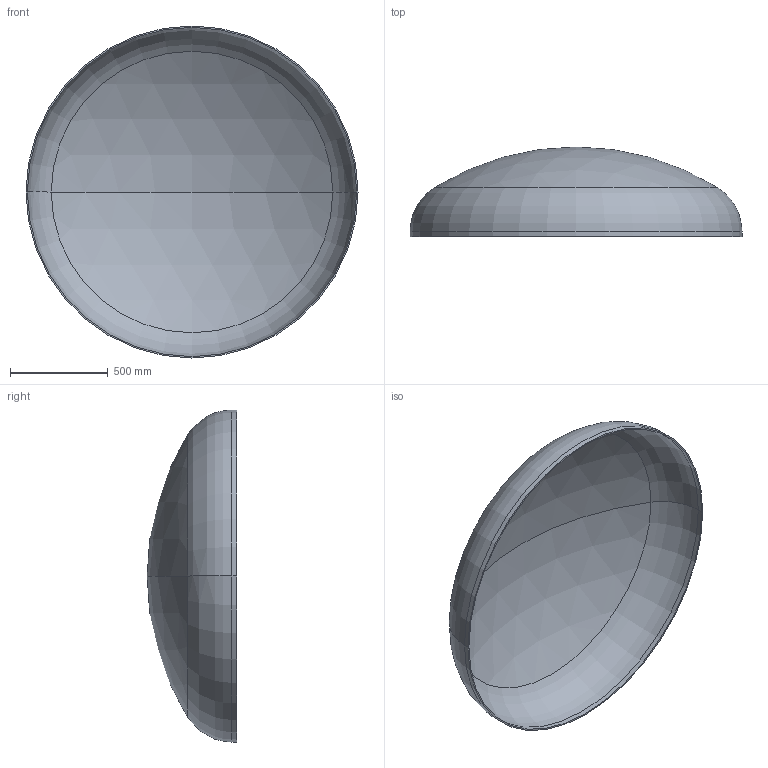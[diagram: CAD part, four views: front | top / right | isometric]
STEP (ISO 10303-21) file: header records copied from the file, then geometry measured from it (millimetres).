
FILE_DESCRIPTION (( 'STEP AP203' ), '1' );
FILE_NAME ('DIN 28013 Korbbogenform_-_Boden DIN 28013 - 1700 x 25 - I - s=7.step', '2016-07-01T11:35:27', ( '' ), ( '' ), 'SwSTEP 2.0', 'SolidWorks 2013', '' );
FILE_SCHEMA (( 'CONFIG_CONTROL_DESIGN' ));
Length unit declared in the file: millimetre
Products named in the file (1): DIN 28013 Korbbogenform_-_Boden DIN 28013 - 1700 x 25 - I - s=7
Bounding box: 1700 x 459.2 x 1700 mm (x, y, z)
Volume: 22788600.4 mm3; surface area: 6548359.7 mm2
Topology: 1 solids, 1 shells, 13 faces, 24 edges, 14 vertices
Faces by surface type: torus 4, cylinder 4, sphere 4, plane 1
Entity records: 407 total; most frequent: DIRECTION 72, CARTESIAN_POINT 52, ORIENTED_EDGE 48, AXIS2_PLACEMENT_3D 34, EDGE_CURVE 24, CIRCLE 20, VERTEX_POINT 14, EDGE_LOOP 14
